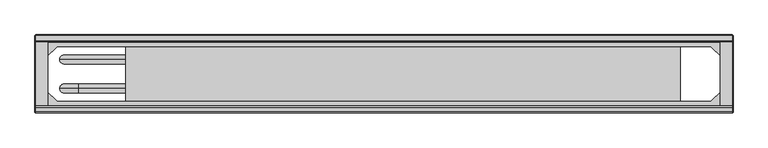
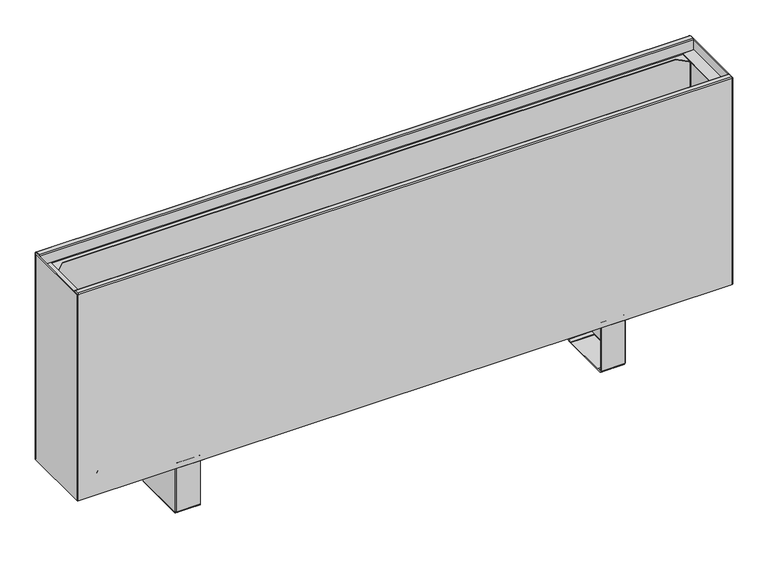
"""IFC4 building model written with IfcOpenShell, lengths in millimetres: proxy geometry, TECHNO_Конвектор напольный_Vita KPZ 135 : KPZ 135-400-1."""

from ifc_helpers import new_model, si_unit, point, frame, origin, place, context, project, spatial, polyline, circle_curve, ellipse_curve, trimmed, outline, extrude, source, transform, mapped, element, save
from ifc_brep_helpers import plane_surface, cylinder_surface, revolved_surface, advanced_brep


def mechanical_equipment_f7afe81f(model_context):
    return source(origin(), model_context, "Body", "SolidModel", [
        advanced_brep(
        [(409.7, -116.8, 1.5), (409.7, -114.5, 3.8), (409.7, -114.5, 4.9), (409.7, -116.0, 4.9), (409.7, -116.0, 3.8), (409.7, -116.8, 3.0), (409.7, -124.5, 3.0), (409.7, -124.5, 1.5), (409.7, -117.6, 1.5), (409.7, -114.5, 97.7), (409.7, -113.7, 98.5), (409.7, -101.0, 98.5), (409.7, -101.0, 100.0), (409.7, -113.7, 100.0), (409.7, -116.0, 97.7), (409.7, -116.0, 95.5), (409.7, -114.5, 95.5), (409.7, -220.5, 3.8), (409.7, -218.2, 1.5), (409.7, -217.4, 1.5), (409.7, -210.5, 1.5), (409.7, -210.5, 3.0), (409.7, -218.2, 3.0), (409.7, -219.0, 3.8), (409.7, -219.0, 4.9), (409.7, -220.5, 4.9), (409.7, -219.0, 97.7), (409.7, -221.3, 100.0), (409.7, -234.0, 100.0), (409.7, -234.0, 98.5), (409.7, -221.3, 98.5), (409.7, -220.5, 97.7), (409.7, -220.5, 95.5), (409.7, -219.0, 95.5), (367.0, -220.5, 97.7), (367.0, -221.3, 98.5), (367.0, -234.0, 98.5), (367.0, -234.0, 100.0), (367.0, -221.3, 100.0), (367.0, -219.0, 97.7), (367.0, -219.0, 3.8), (367.0, -218.2, 3.0), (367.0, -210.5, 3.0), (367.0, -210.5, 1.5), (367.0, -124.5, 1.5), (367.0, -124.5, 3.0), (367.0, -116.8, 3.0), (367.0, -116.0, 3.8), (367.0, -116.0, 97.7), (367.0, -113.7, 100.0), (367.0, -101.0, 100.0), (367.0, -101.0, 98.5), (367.0, -113.7, 98.5), (367.0, -114.5, 97.7), (367.0, -114.5, 3.8), (367.0, -116.8, 1.5), (367.0, -117.6, 1.5), (367.0, -117.6, 0.0), (367.0, -217.4, 0.0), (367.0, -217.4, 1.5), (367.0, -218.2, 1.5), (367.0, -220.5, 3.8), (410.5, -116.8, 95.5), (410.5, -218.2, 95.5), (412.0, -218.2, 95.5), (412.0, -116.8, 95.5), (412.0, -116.8, 4.9), (412.0, -117.6, 4.9), (410.5, -117.6, 4.9), (410.5, -116.8, 4.9), (410.5, -218.2, 4.9), (410.5, -217.4, 4.9), (412.0, -217.4, 4.9), (412.0, -218.2, 4.9), (410.5, -117.6, 2.3), (410.5, -217.4, 2.3), (412.0, -217.4, 2.3), (412.0, -117.6, 2.3), (409.7, -117.6, 0.0), (409.7, -217.4, 0.0)],
        [
            (0, 1, circle_curve(frame((409.7, -116.8, 3.8), z_axis=(1.0, 0.0, 0.0), x_axis=(0.0, -1.0, 0.0)), 2.3)),
            (1, 2),
            (2, 3),
            (3, 4),
            (4, 5, circle_curve(frame((409.7, -116.8, 3.8), z_axis=(-1.0, 0.0, 0.0), x_axis=(0.0, -1.0, 0.0)), 0.8)),
            (5, 6),
            (6, 7),
            (7, 8),
            (8, 0),
            (9, 10, circle_curve(frame((409.7, -113.7, 97.7), z_axis=(-1.0, 0.0, 0.0), x_axis=(0.0, -1.0, 0.0)), 0.8)),
            (10, 11),
            (11, 12),
            (12, 13),
            (13, 14, circle_curve(frame((409.7, -113.7, 97.7), z_axis=(1.0, 0.0, 0.0), x_axis=(0.0, -1.0, 0.0)), 2.3)),
            (14, 15),
            (15, 16),
            (16, 9),
            (17, 18, circle_curve(frame((409.7, -218.2, 3.8), z_axis=(1.0, 0.0, 0.0), x_axis=(0.0, -1.0, 0.0)), 2.3)),
            (18, 19),
            (19, 20),
            (20, 21),
            (21, 22),
            (22, 23, circle_curve(frame((409.7, -218.2, 3.8), z_axis=(-1.0, 0.0, 0.0), x_axis=(0.0, -1.0, 0.0)), 0.8)),
            (23, 24),
            (24, 25),
            (25, 17),
            (26, 27, circle_curve(frame((409.7, -221.3, 97.7), z_axis=(1.0, 0.0, 0.0), x_axis=(0.0, -1.0, 0.0)), 2.3)),
            (27, 28),
            (28, 29),
            (29, 30),
            (30, 31, circle_curve(frame((409.7, -221.3, 97.7), z_axis=(-1.0, 0.0, 0.0), x_axis=(0.0, -1.0, 0.0)), 0.8)),
            (31, 32),
            (32, 33),
            (33, 26),
            (34, 35, circle_curve(frame((367.0, -221.3, 97.7), z_axis=(1.0, 0.0, 0.0), x_axis=(0.0, -1.0, 0.0)), 0.8)),
            (35, 36),
            (36, 37),
            (37, 38),
            (38, 39, circle_curve(frame((367.0, -221.3, 97.7), z_axis=(-1.0, 0.0, 0.0), x_axis=(0.0, -1.0, 0.0)), 2.3)),
            (39, 40),
            (40, 41, circle_curve(frame((367.0, -218.2, 3.8), z_axis=(1.0, 0.0, 0.0), x_axis=(0.0, -1.0, 0.0)), 0.8)),
            (41, 42),
            (42, 43),
            (43, 44),
            (44, 45),
            (45, 46),
            (46, 47, circle_curve(frame((367.0, -116.8, 3.8), z_axis=(1.0, 0.0, 0.0), x_axis=(0.0, -1.0, 0.0)), 0.8)),
            (47, 48),
            (48, 49, circle_curve(frame((367.0, -113.7, 97.7), z_axis=(-1.0, 0.0, 0.0), x_axis=(0.0, -1.0, 0.0)), 2.3)),
            (49, 50),
            (50, 51),
            (51, 52),
            (52, 53, circle_curve(frame((367.0, -113.7, 97.7), z_axis=(1.0, 0.0, 0.0), x_axis=(0.0, -1.0, 0.0)), 0.8)),
            (53, 54),
            (54, 55, circle_curve(frame((367.0, -116.8, 3.8), z_axis=(-1.0, 0.0, 0.0), x_axis=(0.0, -1.0, 0.0)), 2.3)),
            (55, 56),
            (56, 57),
            (57, 58),
            (58, 59),
            (59, 60),
            (60, 61, circle_curve(frame((367.0, -218.2, 3.8), z_axis=(-1.0, 0.0, 0.0), x_axis=(0.0, -1.0, 0.0)), 2.3)),
            (61, 34),
            (30, 35),
            (34, 31),
            (29, 36),
            (28, 37),
            (27, 38),
            (26, 39),
            (33, 24),
            (23, 40),
            (22, 41),
            (5, 46),
            (45, 6),
            (4, 47),
            (3, 15),
            (14, 48),
            (13, 49),
            (12, 50),
            (11, 51),
            (10, 52),
            (9, 53),
            (16, 2),
            (1, 54),
            (0, 55),
            (8, 56),
            (17, 61),
            (60, 18),
            (25, 32),
            (21, 42),
            (20, 43),
            (59, 19),
            (44, 7),
            (15, 62, circle_curve(frame((409.7, -116.8, 95.5), z_axis=(0.0, 0.0, -1.0), x_axis=(-1.0, 0.0, 0.0)), 0.8)),
            (62, 63),
            (63, 33, circle_curve(frame((409.7, -218.2, 95.5), z_axis=(0.0, 0.0, -1.0), x_axis=(-1.0, 0.0, 0.0)), 0.8)),
            (32, 64, circle_curve(frame((409.7, -218.2, 95.5), z_axis=(0.0, 0.0, 1.0), x_axis=(-1.0, 0.0, 0.0)), 2.3)),
            (64, 65),
            (65, 16, circle_curve(frame((409.7, -116.8, 95.5), z_axis=(0.0, 0.0, 1.0), x_axis=(-1.0, 0.0, 0.0)), 2.3)),
            (2, 66, circle_curve(frame((409.7, -116.8, 4.9), z_axis=(0.0, 0.0, -1.0), x_axis=(-1.0, 0.0, 0.0)), 2.3)),
            (66, 67),
            (67, 68),
            (68, 69),
            (69, 3, circle_curve(frame((409.7, -116.8, 4.9), z_axis=(0.0, 0.0, 1.0), x_axis=(-1.0, 0.0, 0.0)), 0.8)),
            (24, 70, circle_curve(frame((409.7, -218.2, 4.9), z_axis=(0.0, 0.0, 1.0), x_axis=(-1.0, 0.0, 0.0)), 0.8)),
            (70, 71),
            (71, 72),
            (72, 73),
            (73, 25, circle_curve(frame((409.7, -218.2, 4.9), z_axis=(0.0, 0.0, -1.0), x_axis=(-1.0, 0.0, 0.0)), 2.3)),
            (69, 62),
            (68, 74),
            (74, 75),
            (75, 71),
            (70, 63),
            (64, 73),
            (72, 76),
            (76, 77),
            (77, 67),
            (66, 65),
            (8, 74, circle_curve(frame((409.7, -117.6, 2.3), z_axis=(0.0, -1.0, 0.0), x_axis=(-1.0, 0.0, 0.0)), 0.8)),
            (77, 78, circle_curve(frame((409.7, -117.6, 2.3), z_axis=(0.0, 1.0, 0.0), x_axis=(-1.0, 0.0, 0.0)), 2.3)),
            (78, 57),
            (58, 79),
            (79, 76, circle_curve(frame((409.7, -217.4, 2.3), z_axis=(0.0, -1.0, 0.0), x_axis=(-1.0, 0.0, 0.0)), 2.3)),
            (75, 19, circle_curve(frame((409.7, -217.4, 2.3), z_axis=(0.0, 1.0, 0.0), x_axis=(-1.0, 0.0, 0.0)), 0.8)),
            (20, 7),
            (79, 78),
        ],
        [
            plane_surface(frame((409.7, -222.1, 97.7), z_axis=(1.0, 0.0, 0.0), x_axis=(0.0, 0.0, 1.0))),
            plane_surface(frame((367.0, -222.1, 97.7), z_axis=(-1.0, 0.0, 0.0), x_axis=(0.0, 0.0, -1.0))),
            revolved_surface(polyline([(409.7, -222.10000000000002, 97.7), (367.0, -222.10000000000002, 97.7)]), (409.7, -221.3, 97.7), (1.0, 0.0, 0.0)),
            plane_surface(frame((367.0, -221.3, 98.5), z_axis=(0.0, 0.0, -1.0), x_axis=(1.0, 0.0, 0.0))),
            plane_surface(frame((367.0, -234.0, 98.5), z_axis=(0.0, -1.0, 0.0), x_axis=(1.0, 0.0, 0.0))),
            plane_surface(frame((367.0, -234.0, 100.0), z_axis=(0.0, 0.0, 1.0), x_axis=(1.0, 0.0, 0.0))),
            cylinder_surface(frame((409.7, -221.3, 97.7), z_axis=(-1.0, 0.0, 0.0), x_axis=(0.0, -1.0, 0.0)), 2.3),
            plane_surface(frame((367.0, -219.0, 97.7), z_axis=(0.0, 1.0, 0.0), x_axis=(1.0, 0.0, 0.0))),
            revolved_surface(polyline([(409.7, -219.0, 3.8), (367.0, -219.0, 3.8)]), (409.7, -218.2, 3.8), (1.0, 0.0, 0.0)),
            plane_surface(frame((367.0, -124.5, 3.0), z_axis=(0.0, 0.0, 1.0), x_axis=(1.0, 0.0, 0.0))),
            revolved_surface(polyline([(409.7, -117.6, 3.8), (367.0, -117.6, 3.8)]), (412.0, -116.8, 3.8), (1.0, 0.0, 0.0)),
            plane_surface(frame((367.0, -116.0, 3.8), z_axis=(0.0, -1.0, 0.0), x_axis=(1.0, 0.0, 0.0))),
            cylinder_surface(frame((412.0, -113.7, 97.7), z_axis=(-1.0, 0.0, 0.0), x_axis=(0.0, -1.0, 0.0)), 2.3),
            plane_surface(frame((367.0, -113.7, 100.0), z_axis=(0.0, 0.0, 1.0), x_axis=(1.0, 0.0, 0.0))),
            plane_surface(frame((367.0, -101.0, 100.0), z_axis=(0.0, 1.0, 0.0), x_axis=(1.0, 0.0, 0.0))),
            plane_surface(frame((367.0, -101.0, 98.5), z_axis=(0.0, 0.0, -1.0), x_axis=(1.0, 0.0, 0.0))),
            revolved_surface(polyline([(409.7, -114.5, 97.7), (367.0, -114.5, 97.7)]), (412.0, -113.7, 97.7), (1.0, 0.0, 0.0)),
            plane_surface(frame((367.0, -114.5, 97.7), z_axis=(0.0, 1.0, 0.0), x_axis=(1.0, 0.0, 0.0))),
            cylinder_surface(frame((412.0, -116.8, 3.8), z_axis=(-1.0, 0.0, 0.0), x_axis=(0.0, -1.0, 0.0)), 2.3),
            plane_surface(frame((367.0, -116.8, 1.5), z_axis=(0.0, 0.0, -1.0), x_axis=(1.0, 0.0, 0.0))),
            cylinder_surface(frame((409.7, -218.2, 3.8), z_axis=(-1.0, 0.0, 0.0), x_axis=(0.0, -1.0, 0.0)), 2.3),
            plane_surface(frame((367.0, -220.5, 3.8), z_axis=(0.0, -1.0, 0.0), x_axis=(1.0, 0.0, 0.0))),
            plane_surface(frame((367.0, -218.2, 3.0), z_axis=(0.0, 0.0, 1.0), x_axis=(1.0, 0.0, 0.0))),
            plane_surface(frame((367.0, -210.5, 3.0), z_axis=(0.0, 1.0, 0.0), x_axis=(1.0, 0.0, 0.0))),
            plane_surface(frame((367.0, -210.5, 1.5), z_axis=(0.0, 0.0, -1.0), x_axis=(1.0, 0.0, 0.0))),
            plane_surface(frame((367.0, -124.5, 1.5), z_axis=(0.0, -1.0, 0.0), x_axis=(1.0, 0.0, 0.0))),
            plane_surface(frame((409.7, -116.0, 95.5), z_axis=(0.0, 0.0, 1.0), x_axis=(0.0, -1.0, 0.0))),
            plane_surface(frame((409.7, -116.0, 4.9), z_axis=(0.0, 0.0, -1.0), x_axis=(0.0, 1.0, 0.0))),
            revolved_surface(polyline([(408.9, -116.8, 4.9), (408.9, -116.8, 95.5)]), (409.7, -116.8, 4.9), (0.0, 0.0, -1.0)),
            plane_surface(frame((410.5, -116.8, 95.5), z_axis=(-1.0, 0.0, 0.0), x_axis=(0.0, 0.0, -1.0))),
            plane_surface(frame((412.0, -117.6, 95.5), z_axis=(1.0, 0.0, 0.0), x_axis=(0.0, 0.0, -1.0))),
            cylinder_surface(frame((409.7, -116.8, 4.9), z_axis=(0.0, 0.0, 1.0), x_axis=(-1.0, 0.0, 0.0)), 2.3),
            cylinder_surface(frame((409.7, -218.2, 0.0), z_axis=(0.0, 0.0, 1.0), x_axis=(-1.0, 0.0, 0.0)), 2.3),
            revolved_surface(polyline([(408.9, -218.2, 4.9), (408.9, -218.2, 95.5)]), (409.7, -218.2, 0.0), (0.0, 0.0, -1.0)),
            plane_surface(frame((367.0, -117.6, 1.5), z_axis=(0.0, 1.0, 0.0), x_axis=(0.0, 0.0, 1.0))),
            plane_surface(frame((367.0, -217.4, 1.5), z_axis=(0.0, -1.0, 0.0), x_axis=(0.0, 0.0, -1.0))),
            plane_surface(frame((367.0, -117.6, 1.5), z_axis=(0.0, 0.0, 1.0), x_axis=(0.0, -1.0, 0.0))),
            revolved_surface(polyline([(408.9, -217.4, 2.3), (408.9, -117.6, 2.3)]), (409.7, -217.4, 2.3), (0.0, -1.0, 0.0)),
            cylinder_surface(frame((409.7, -217.4, 2.3), z_axis=(0.0, 1.0, 0.0), x_axis=(-1.0, 0.0, 0.0)), 2.3),
            plane_surface(frame((409.7, -117.6, 0.0), z_axis=(0.0, 0.0, -1.0), x_axis=(0.0, -1.0, 0.0))),
        ],
        [
            (0, [[1, 2, 3, 4, 5, 6, 7, 8, 9]]),
            (0, [[10, 11, 12, 13, 14, 15, 16, 17]]),
            (0, [[18, 19, 20, 21, 22, 23, 24, 25, 26]]),
            (0, [[27, 28, 29, 30, 31, 32, 33, 34]]),
            (1, [[35, 36, 37, 38, 39, 40, 41, 42, 43, 44, 45, 46, 47, 48, 49, 50, 51, 52, 53, 54, 55, 56, 57, 58, 59, 60, 61, 62]]),
            (2, [[-31, 63, -35, 64]]),
            (3, [[-30, 65, -36, -63]]),
            (4, [[-29, 66, -37, -65]]),
            (5, [[-28, 67, -38, -66]]),
            (6, [[-27, 68, -39, -67]]),
            (7, [[-40, -68, -34, 69, -24, 70]]),
            (8, [[-23, 71, -41, -70]]),
            (9, [[-6, 72, -46, 73]]),
            (10, [[-5, 74, -47, -72]]),
            (11, [[-48, -74, -4, 75, -15, 76]]),
            (12, [[-14, 77, -49, -76]]),
            (13, [[-13, 78, -50, -77]]),
            (14, [[-12, 79, -51, -78]]),
            (15, [[-11, 80, -52, -79]]),
            (16, [[-10, 81, -53, -80]]),
            (17, [[-54, -81, -17, 82, -2, 83]]),
            (18, [[-1, 84, -55, -83]]),
            (19, [[-84, -9, 85, -56]]),
            (20, [[-18, 86, -61, 87]]),
            (21, [[-62, -86, -26, 88, -32, -64]]),
            (22, [[-22, 89, -42, -71]]),
            (23, [[-21, 90, -43, -89]]),
            (24, [[-87, -60, 91, -19]]),
            (25, [[-7, -73, -45, 92]]),
            (26, [[93, 94, 95, -33, 96, 97, 98, -16]]),
            (27, [[99, 100, 101, 102, 103, -3]]),
            (27, [[104, 105, 106, 107, 108, -25]]),
            (28, [[-93, -75, -103, 109]]),
            (29, [[-94, -109, -102, 110, 111, 112, -105, 113]]),
            (30, [[-97, 114, -107, 115, 116, 117, -100, 118]]),
            (31, [[-98, -118, -99, -82]]),
            (32, [[-96, -88, -108, -114]]),
            (33, [[-95, -113, -104, -69]]),
            (34, [[-57, -85, 119, -110, -101, -117, 120, 121]]),
            (35, [[122, 123, -115, -106, -112, 124, -91, -59]]),
            (36, [[125, -92, -44, -90]]),
            (37, [[-119, -8, -125, -20, -124, -111]]),
            (38, [[-120, -116, -123, 126]]),
            (39, [[-121, -126, -122, -58]]),
        ],
    ),
        advanced_brep(
        [(-409.7, -218.2, 1.5), (-409.7, -220.5, 3.8), (-409.7, -220.5, 4.9), (-409.7, -219.0, 4.9), (-409.7, -219.0, 3.8), (-409.7, -218.2, 3.0), (-409.7, -210.5, 3.0), (-409.7, -210.5, 1.5), (-409.7, -217.4, 1.5), (-409.7, -220.5, 97.7), (-409.7, -221.3, 98.5), (-409.7, -234.0, 98.5), (-409.7, -234.0, 100.0), (-409.7, -221.3, 100.0), (-409.7, -219.0, 97.7), (-409.7, -219.0, 95.5), (-409.7, -220.5, 95.5), (-409.7, -114.5, 3.8), (-409.7, -116.8, 1.5), (-409.7, -117.6, 1.5), (-409.7, -124.5, 1.5), (-409.7, -124.5, 3.0), (-409.7, -116.8, 3.0), (-409.7, -116.0, 3.8), (-409.7, -116.0, 4.9), (-409.7, -114.5, 4.9), (-409.7, -116.0, 97.7), (-409.7, -113.7, 100.0), (-409.7, -101.0, 100.0), (-409.7, -101.0, 98.5), (-409.7, -113.7, 98.5), (-409.7, -114.5, 97.7), (-409.7, -114.5, 95.5), (-409.7, -116.0, 95.5), (-367.0, -114.5, 97.7), (-367.0, -113.7, 98.5), (-367.0, -101.0, 98.5), (-367.0, -101.0, 100.0), (-367.0, -113.7, 100.0), (-367.0, -116.0, 97.7), (-367.0, -116.0, 3.8), (-367.0, -116.8, 3.0), (-367.0, -124.5, 3.0), (-367.0, -124.5, 1.5), (-367.0, -210.5, 1.5), (-367.0, -210.5, 3.0), (-367.0, -218.2, 3.0), (-367.0, -219.0, 3.8), (-367.0, -219.0, 97.7), (-367.0, -221.3, 100.0), (-367.0, -234.0, 100.0), (-367.0, -234.0, 98.5), (-367.0, -221.3, 98.5), (-367.0, -220.5, 97.7), (-367.0, -220.5, 3.8), (-367.0, -218.2, 1.5), (-367.0, -217.4, 1.5), (-367.0, -217.4, 0.0), (-367.0, -117.6, 0.0), (-367.0, -117.6, 1.5), (-367.0, -116.8, 1.5), (-367.0, -114.5, 3.8), (-410.5, -218.2, 95.5), (-410.5, -116.8, 95.5), (-412.0, -116.8, 95.5), (-412.0, -218.2, 95.5), (-412.0, -218.2, 4.9), (-412.0, -217.4, 4.9), (-410.5, -217.4, 4.9), (-410.5, -218.2, 4.9), (-410.5, -116.8, 4.9), (-410.5, -117.6, 4.9), (-412.0, -117.6, 4.9), (-412.0, -116.8, 4.9), (-410.5, -217.4, 2.3), (-410.5, -117.6, 2.3), (-412.0, -117.6, 2.3), (-412.0, -217.4, 2.3), (-409.7, -217.4, 0.0), (-409.7, -117.6, 0.0)],
        [
            (0, 1, circle_curve(frame((-409.7, -218.2, 3.8), z_axis=(-1.0, 0.0, 0.0), x_axis=(0.0, 1.0, 0.0)), 2.3)),
            (1, 2),
            (2, 3),
            (3, 4),
            (4, 5, circle_curve(frame((-409.7, -218.2, 3.8), z_axis=(1.0, 0.0, 0.0), x_axis=(0.0, 1.0, 0.0)), 0.8)),
            (5, 6),
            (6, 7),
            (7, 8),
            (8, 0),
            (9, 10, circle_curve(frame((-409.7, -221.3, 97.7), z_axis=(1.0, 0.0, 0.0), x_axis=(0.0, 1.0, 0.0)), 0.8)),
            (10, 11),
            (11, 12),
            (12, 13),
            (13, 14, circle_curve(frame((-409.7, -221.3, 97.7), z_axis=(-1.0, 0.0, 0.0), x_axis=(0.0, 1.0, 0.0)), 2.3)),
            (14, 15),
            (15, 16),
            (16, 9),
            (17, 18, circle_curve(frame((-409.7, -116.8, 3.8), z_axis=(-1.0, 0.0, 0.0), x_axis=(0.0, 1.0, 0.0)), 2.3)),
            (18, 19),
            (19, 20),
            (20, 21),
            (21, 22),
            (22, 23, circle_curve(frame((-409.7, -116.8, 3.8), z_axis=(1.0, 0.0, 0.0), x_axis=(0.0, 1.0, 0.0)), 0.8)),
            (23, 24),
            (24, 25),
            (25, 17),
            (26, 27, circle_curve(frame((-409.7, -113.7, 97.7), z_axis=(-1.0, 0.0, 0.0), x_axis=(0.0, 1.0, 0.0)), 2.3)),
            (27, 28),
            (28, 29),
            (29, 30),
            (30, 31, circle_curve(frame((-409.7, -113.7, 97.7), z_axis=(1.0, 0.0, 0.0), x_axis=(0.0, 1.0, 0.0)), 0.8)),
            (31, 32),
            (32, 33),
            (33, 26),
            (34, 35, circle_curve(frame((-367.0, -113.7, 97.7), z_axis=(-1.0, 0.0, 0.0), x_axis=(0.0, 1.0, 0.0)), 0.8)),
            (35, 36),
            (36, 37),
            (37, 38),
            (38, 39, circle_curve(frame((-367.0, -113.7, 97.7), z_axis=(1.0, 0.0, 0.0), x_axis=(0.0, 1.0, 0.0)), 2.3)),
            (39, 40),
            (40, 41, circle_curve(frame((-367.0, -116.8, 3.8), z_axis=(-1.0, 0.0, 0.0), x_axis=(0.0, 1.0, 0.0)), 0.8)),
            (41, 42),
            (42, 43),
            (43, 44),
            (44, 45),
            (45, 46),
            (46, 47, circle_curve(frame((-367.0, -218.2, 3.8), z_axis=(-1.0, 0.0, 0.0), x_axis=(0.0, 1.0, 0.0)), 0.8)),
            (47, 48),
            (48, 49, circle_curve(frame((-367.0, -221.3, 97.7), z_axis=(1.0, 0.0, 0.0), x_axis=(0.0, 1.0, 0.0)), 2.3)),
            (49, 50),
            (50, 51),
            (51, 52),
            (52, 53, circle_curve(frame((-367.0, -221.3, 97.7), z_axis=(-1.0, 0.0, 0.0), x_axis=(0.0, 1.0, 0.0)), 0.8)),
            (53, 54),
            (54, 55, circle_curve(frame((-367.0, -218.2, 3.8), z_axis=(1.0, 0.0, 0.0), x_axis=(0.0, 1.0, 0.0)), 2.3)),
            (55, 56),
            (56, 57),
            (57, 58),
            (58, 59),
            (59, 60),
            (60, 61, circle_curve(frame((-367.0, -116.8, 3.8), z_axis=(1.0, 0.0, 0.0), x_axis=(0.0, 1.0, 0.0)), 2.3)),
            (61, 34),
            (30, 35),
            (34, 31),
            (29, 36),
            (28, 37),
            (27, 38),
            (26, 39),
            (33, 24),
            (23, 40),
            (22, 41),
            (5, 46),
            (45, 6),
            (4, 47),
            (3, 15),
            (14, 48),
            (13, 49),
            (12, 50),
            (11, 51),
            (10, 52),
            (9, 53),
            (16, 2),
            (1, 54),
            (0, 55),
            (8, 56),
            (17, 61),
            (60, 18),
            (25, 32),
            (21, 42),
            (20, 43),
            (59, 19),
            (44, 7),
            (15, 62, circle_curve(frame((-409.7, -218.2, 95.5), z_axis=(0.0, 0.0, -1.0), x_axis=(1.0, 0.0, 0.0)), 0.8)),
            (62, 63),
            (63, 33, circle_curve(frame((-409.7, -116.8, 95.5), z_axis=(0.0, 0.0, -1.0), x_axis=(1.0, 0.0, 0.0)), 0.8)),
            (32, 64, circle_curve(frame((-409.7, -116.8, 95.5), z_axis=(0.0, 0.0, 1.0), x_axis=(1.0, 0.0, 0.0)), 2.3)),
            (64, 65),
            (65, 16, circle_curve(frame((-409.7, -218.2, 95.5), z_axis=(0.0, 0.0, 1.0), x_axis=(1.0, 0.0, 0.0)), 2.3)),
            (2, 66, circle_curve(frame((-409.7, -218.2, 4.9), z_axis=(0.0, 0.0, -1.0), x_axis=(1.0, 0.0, 0.0)), 2.3)),
            (66, 67),
            (67, 68),
            (68, 69),
            (69, 3, circle_curve(frame((-409.7, -218.2, 4.9), z_axis=(0.0, 0.0, 1.0), x_axis=(1.0, 0.0, 0.0)), 0.8)),
            (24, 70, circle_curve(frame((-409.7, -116.8, 4.9), z_axis=(0.0, 0.0, 1.0), x_axis=(1.0, 0.0, 0.0)), 0.8)),
            (70, 71),
            (71, 72),
            (72, 73),
            (73, 25, circle_curve(frame((-409.7, -116.8, 4.9), z_axis=(0.0, 0.0, -1.0), x_axis=(1.0, 0.0, 0.0)), 2.3)),
            (69, 62),
            (68, 74),
            (74, 75),
            (75, 71),
            (70, 63),
            (64, 73),
            (72, 76),
            (76, 77),
            (77, 67),
            (66, 65),
            (8, 74, circle_curve(frame((-409.7, -217.4, 2.3), z_axis=(0.0, 1.0, 0.0), x_axis=(1.0, 0.0, 0.0)), 0.8)),
            (77, 78, circle_curve(frame((-409.7, -217.4, 2.3), z_axis=(0.0, -1.0, 0.0), x_axis=(1.0, 0.0, 0.0)), 2.3)),
            (78, 57),
            (58, 79),
            (79, 76, circle_curve(frame((-409.7, -117.6, 2.3), z_axis=(0.0, 1.0, 0.0), x_axis=(1.0, 0.0, 0.0)), 2.3)),
            (75, 19, circle_curve(frame((-409.7, -117.6, 2.3), z_axis=(0.0, -1.0, 0.0), x_axis=(1.0, 0.0, 0.0)), 0.8)),
            (20, 7),
            (79, 78),
        ],
        [
            plane_surface(frame((-409.7, -112.9, 97.7), z_axis=(-1.0, 0.0, 0.0), x_axis=(0.0, 0.0, 1.0))),
            plane_surface(frame((-367.0, -112.9, 97.7), z_axis=(1.0, 0.0, 0.0), x_axis=(0.0, 0.0, -1.0))),
            revolved_surface(polyline([(-409.7, -112.9, 97.7), (-367.0, -112.9, 97.7)]), (-409.7, -113.7, 97.7), (-1.0, 0.0, 0.0)),
            plane_surface(frame((-367.0, -113.7, 98.5), z_axis=(0.0, 0.0, -1.0), x_axis=(-1.0, 0.0, 0.0))),
            plane_surface(frame((-367.0, -101.0, 98.5), z_axis=(0.0, 1.0, 0.0), x_axis=(-1.0, 0.0, 0.0))),
            plane_surface(frame((-367.0, -101.0, 100.0), z_axis=(0.0, 0.0, 1.0), x_axis=(-1.0, 0.0, 0.0))),
            cylinder_surface(frame((-409.7, -113.7, 97.7), z_axis=(1.0, 0.0, 0.0), x_axis=(0.0, 1.0, 0.0)), 2.3),
            plane_surface(frame((-367.0, -116.0, 97.7), z_axis=(0.0, -1.0, 0.0), x_axis=(-1.0, 0.0, 0.0))),
            revolved_surface(polyline([(-409.7, -116.0, 3.8), (-367.0, -116.0, 3.8)]), (-409.7, -116.8, 3.8), (-1.0, 0.0, 0.0)),
            plane_surface(frame((-367.0, -210.5, 3.0), z_axis=(0.0, 0.0, 1.0), x_axis=(-1.0, 0.0, 0.0))),
            revolved_surface(polyline([(-409.7, -217.39999999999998, 3.8), (-367.0, -217.39999999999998, 3.8)]), (-412.0, -218.2, 3.8), (-1.0, 0.0, 0.0)),
            plane_surface(frame((-367.0, -219.0, 3.8), z_axis=(0.0, 1.0, 0.0), x_axis=(-1.0, 0.0, 0.0))),
            cylinder_surface(frame((-412.0, -221.3, 97.7), z_axis=(1.0, 0.0, 0.0), x_axis=(0.0, 1.0, 0.0)), 2.3),
            plane_surface(frame((-367.0, -221.3, 100.0), z_axis=(0.0, 0.0, 1.0), x_axis=(-1.0, 0.0, 0.0))),
            plane_surface(frame((-367.0, -234.0, 100.0), z_axis=(0.0, -1.0, 0.0), x_axis=(-1.0, 0.0, 0.0))),
            plane_surface(frame((-367.0, -234.0, 98.5), z_axis=(0.0, 0.0, -1.0), x_axis=(-1.0, 0.0, 0.0))),
            revolved_surface(polyline([(-409.7, -220.5, 97.7), (-367.0, -220.5, 97.7)]), (-412.0, -221.3, 97.7), (-1.0, 0.0, 0.0)),
            plane_surface(frame((-367.0, -220.5, 97.7), z_axis=(0.0, -1.0, 0.0), x_axis=(-1.0, 0.0, 0.0))),
            cylinder_surface(frame((-412.0, -218.2, 3.8), z_axis=(1.0, 0.0, 0.0), x_axis=(0.0, 1.0, 0.0)), 2.3),
            plane_surface(frame((-367.0, -218.2, 1.5), z_axis=(0.0, 0.0, -1.0), x_axis=(-1.0, 0.0, 0.0))),
            cylinder_surface(frame((-409.7, -116.8, 3.8), z_axis=(1.0, 0.0, 0.0), x_axis=(0.0, 1.0, 0.0)), 2.3),
            plane_surface(frame((-367.0, -114.5, 3.8), z_axis=(0.0, 1.0, 0.0), x_axis=(-1.0, 0.0, 0.0))),
            plane_surface(frame((-367.0, -116.8, 3.0), z_axis=(0.0, 0.0, 1.0), x_axis=(-1.0, 0.0, 0.0))),
            plane_surface(frame((-367.0, -124.5, 3.0), z_axis=(0.0, -1.0, 0.0), x_axis=(-1.0, 0.0, 0.0))),
            plane_surface(frame((-367.0, -124.5, 1.5), z_axis=(0.0, 0.0, -1.0), x_axis=(-1.0, 0.0, 0.0))),
            plane_surface(frame((-367.0, -210.5, 1.5), z_axis=(0.0, 1.0, 0.0), x_axis=(-1.0, 0.0, 0.0))),
            plane_surface(frame((-409.7, -219.0, 95.5), z_axis=(0.0, 0.0, 1.0), x_axis=(0.0, 1.0, 0.0))),
            plane_surface(frame((-409.7, -219.0, 4.9), z_axis=(0.0, 0.0, -1.0), x_axis=(0.0, -1.0, 0.0))),
            revolved_surface(polyline([(-408.9, -218.2, 4.9), (-408.9, -218.2, 95.5)]), (-409.7, -218.2, 4.9), (0.0, 0.0, -1.0)),
            plane_surface(frame((-410.5, -218.2, 95.5), z_axis=(1.0, 0.0, 0.0), x_axis=(0.0, 0.0, -1.0))),
            plane_surface(frame((-412.0, -217.4, 95.5), z_axis=(-1.0, 0.0, 0.0), x_axis=(0.0, 0.0, -1.0))),
            cylinder_surface(frame((-409.7, -218.2, 4.9), z_axis=(0.0, 0.0, 1.0), x_axis=(1.0, 0.0, 0.0)), 2.3),
            cylinder_surface(frame((-409.7, -116.8, 0.0), z_axis=(0.0, 0.0, 1.0), x_axis=(1.0, 0.0, 0.0)), 2.3),
            revolved_surface(polyline([(-408.9, -116.8, 4.9), (-408.9, -116.8, 95.5)]), (-409.7, -116.8, 0.0), (0.0, 0.0, -1.0)),
            plane_surface(frame((-367.0, -217.4, 1.5), z_axis=(0.0, -1.0, 0.0), x_axis=(0.0, 0.0, 1.0))),
            plane_surface(frame((-367.0, -117.6, 1.5), z_axis=(0.0, 1.0, 0.0), x_axis=(0.0, 0.0, -1.0))),
            plane_surface(frame((-367.0, -217.4, 1.5), z_axis=(0.0, 0.0, 1.0), x_axis=(0.0, 1.0, 0.0))),
            revolved_surface(polyline([(-408.9, -117.6, 2.3), (-408.9, -217.4, 2.3)]), (-409.7, -117.6, 2.3), (0.0, 1.0, 0.0)),
            cylinder_surface(frame((-409.7, -117.6, 2.3), z_axis=(0.0, -1.0, 0.0), x_axis=(1.0, 0.0, 0.0)), 2.3),
            plane_surface(frame((-409.7, -217.4, 0.0), z_axis=(0.0, 0.0, -1.0), x_axis=(0.0, 1.0, 0.0))),
        ],
        [
            (0, [[1, 2, 3, 4, 5, 6, 7, 8, 9]]),
            (0, [[10, 11, 12, 13, 14, 15, 16, 17]]),
            (0, [[18, 19, 20, 21, 22, 23, 24, 25, 26]]),
            (0, [[27, 28, 29, 30, 31, 32, 33, 34]]),
            (1, [[35, 36, 37, 38, 39, 40, 41, 42, 43, 44, 45, 46, 47, 48, 49, 50, 51, 52, 53, 54, 55, 56, 57, 58, 59, 60, 61, 62]]),
            (2, [[-31, 63, -35, 64]]),
            (3, [[-30, 65, -36, -63]]),
            (4, [[-29, 66, -37, -65]]),
            (5, [[-28, 67, -38, -66]]),
            (6, [[-27, 68, -39, -67]]),
            (7, [[-40, -68, -34, 69, -24, 70]]),
            (8, [[-23, 71, -41, -70]]),
            (9, [[-6, 72, -46, 73]]),
            (10, [[-5, 74, -47, -72]]),
            (11, [[-48, -74, -4, 75, -15, 76]]),
            (12, [[-14, 77, -49, -76]]),
            (13, [[-13, 78, -50, -77]]),
            (14, [[-12, 79, -51, -78]]),
            (15, [[-11, 80, -52, -79]]),
            (16, [[-10, 81, -53, -80]]),
            (17, [[-54, -81, -17, 82, -2, 83]]),
            (18, [[-1, 84, -55, -83]]),
            (19, [[-84, -9, 85, -56]]),
            (20, [[-18, 86, -61, 87]]),
            (21, [[-62, -86, -26, 88, -32, -64]]),
            (22, [[-22, 89, -42, -71]]),
            (23, [[-21, 90, -43, -89]]),
            (24, [[-87, -60, 91, -19]]),
            (25, [[-7, -73, -45, 92]]),
            (26, [[93, 94, 95, -33, 96, 97, 98, -16]]),
            (27, [[99, 100, 101, 102, 103, -3]]),
            (27, [[104, 105, 106, 107, 108, -25]]),
            (28, [[-93, -75, -103, 109]]),
            (29, [[-94, -109, -102, 110, 111, 112, -105, 113]]),
            (30, [[-97, 114, -107, 115, 116, 117, -100, 118]]),
            (31, [[-98, -118, -99, -82]]),
            (32, [[-96, -88, -108, -114]]),
            (33, [[-95, -113, -104, -69]]),
            (34, [[-57, -85, 119, -110, -101, -117, 120, 121]]),
            (35, [[122, 123, -115, -106, -112, 124, -91, -59]]),
            (36, [[125, -92, -44, -90]]),
            (37, [[-119, -8, -125, -20, -124, -111]]),
            (38, [[-120, -116, -123, 126]]),
            (39, [[-121, -126, -122, -58]]),
        ],
    ),
        advanced_brep(
        [(-444.0, -192.5, 136.5), (-444.0, -192.5, 121.5), (-525.0, -192.5, 136.5), (-525.0, -192.5, 121.5), (-542.5, -192.5, 104.0), (-557.5, -192.5, 104.0), (-557.5, -192.5, 100.0), (-542.5, -192.5, 100.0)],
        [
            (0, 1, circle_curve(frame((-444.0, -192.5, 129.0), z_axis=(1.0, 0.0, 0.0), x_axis=(0.0, 0.0, -1.0)), 7.5)),
            (1, 0, circle_curve(frame((-444.0, -192.5, 129.0), z_axis=(1.0, 0.0, 0.0), x_axis=(0.0, 0.0, -1.0)), 7.5)),
            (0, 2),
            (2, 3, circle_curve(frame((-525.0, -192.5, 129.0), z_axis=(1.0, 0.0, 0.0), x_axis=(0.0, 0.0, -1.0)), 7.5)),
            (3, 1),
            (3, 2, circle_curve(frame((-525.0, -192.5, 129.0), z_axis=(1.0, 0.0, 0.0), x_axis=(0.0, 0.0, -1.0)), 7.5)),
            (4, 3, circle_curve(frame((-525.0, -192.5, 104.0), z_axis=(0.0, 1.0, 0.0), x_axis=(0.0, 0.0, 1.0)), 17.5)),
            (2, 5, circle_curve(frame((-525.0, -192.5, 104.0), z_axis=(0.0, -1.0, 0.0), x_axis=(0.0, 0.0, 1.0)), 32.5)),
            (5, 4, circle_curve(frame((-550.0, -192.5, 104.0), z_axis=(0.0, 0.0, 1.0), x_axis=(1.0, 0.0, 0.0)), 7.5)),
            (4, 5, circle_curve(frame((-550.0, -192.5, 104.0), z_axis=(0.0, 0.0, 1.0), x_axis=(1.0, 0.0, 0.0)), 7.5)),
            (6, 7, circle_curve(frame((-550.0, -192.5, 100.0), z_axis=(0.0, 0.0, -1.0), x_axis=(1.0, 0.0, 0.0)), 7.5)),
            (7, 6, circle_curve(frame((-550.0, -192.5, 100.0), z_axis=(0.0, 0.0, -1.0), x_axis=(1.0, 0.0, 0.0)), 7.5)),
            (5, 6),
            (7, 4),
        ],
        [
            plane_surface(frame((-444.0, -192.5, 129.0), z_axis=(1.0, 0.0, 0.0), x_axis=(0.0, -1.0, 0.0))),
            cylinder_surface(frame((-444.0, -192.5, 129.0), z_axis=(1.0, 0.0, 0.0), x_axis=(0.0, 0.0, -1.0)), 7.5),
            revolved_surface(trimmed(ellipse_curve(frame((-525.0, -192.5, 129.0), z_axis=(1.0, 0.0, 0.0), x_axis=(0.0, 0.0, -1.0)), 7.5, 7.5), [point((-525.0, -192.5, 136.5))], [point((-525.0, -192.5, 121.5))], True, "CARTESIAN"), (-525.0, -192.5, 104.0), (0.0, -1.0, 0.0)),
            revolved_surface(trimmed(ellipse_curve(frame((-525.0, -192.5, 129.0), z_axis=(1.0, 0.0, 0.0), x_axis=(0.0, 0.0, -1.0)), 7.5, 7.5), [point((-525.0, -192.5, 121.5))], [point((-525.0, -192.5, 136.5))], True, "CARTESIAN"), (-525.0, -192.5, 104.0), (0.0, -1.0, 0.0)),
            plane_surface(frame((-550.0, -192.5, 100.0), z_axis=(0.0, 0.0, -1.0), x_axis=(0.0, -1.0, 0.0))),
            cylinder_surface(frame((-550.0, -192.5, 104.0), z_axis=(0.0, 0.0, 1.0), x_axis=(1.0, 0.0, 0.0)), 7.5),
        ],
        [
            (0, [[1, 2]]),
            (1, [[-1, 3, 4, 5]]),
            (1, [[-2, -5, 6, -3]]),
            (2, [[7, -4, 8, 9]]),
            (3, [[-8, -6, -7, 10]]),
            (4, [[11, 12]]),
            (5, [[-9, 13, -12, 14]]),
            (5, [[-10, -14, -11, -13]]),
        ],
    ),
        advanced_brep(
        [(-444.0, -142.5, 136.5), (-444.0, -142.5, 121.5), (-557.5, -142.5, 136.5), (-542.5, -142.5, 121.5), (-557.5, -142.5, 100.0), (-542.5, -142.5, 100.0)],
        [
            (0, 1, circle_curve(frame((-444.0, -142.5, 129.0), z_axis=(1.0, 0.0, 0.0), x_axis=(0.0, 0.0, -1.0)), 7.5)),
            (1, 0, circle_curve(frame((-444.0, -142.5, 129.0), z_axis=(1.0, 0.0, 0.0), x_axis=(0.0, 0.0, -1.0)), 7.5)),
            (0, 2),
            (2, 3, ellipse_curve(frame((-550.0, -142.5, 129.0), z_axis=(0.7071067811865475, 0.0, 0.7071067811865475), x_axis=(0.7071067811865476, 0.0, -0.7071067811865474)), 10.6066017, 7.5)),
            (3, 1),
            (3, 2, ellipse_curve(frame((-550.0, -142.5, 129.0), z_axis=(0.7071067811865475, 0.0, 0.7071067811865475), x_axis=(0.7071067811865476, 0.0, -0.7071067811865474)), 10.6066017, 7.5)),
            (4, 5, circle_curve(frame((-550.0, -142.5, 100.0), z_axis=(0.0, 0.0, -1.0), x_axis=(1.0, 0.0, 0.0)), 7.5)),
            (5, 4, circle_curve(frame((-550.0, -142.5, 100.0), z_axis=(0.0, 0.0, -1.0), x_axis=(1.0, 0.0, 0.0)), 7.5)),
            (2, 4),
            (5, 3),
        ],
        [
            plane_surface(frame((-444.0, -142.5, 129.0), z_axis=(1.0, 0.0, 0.0), x_axis=(0.0, -1.0, 0.0))),
            cylinder_surface(frame((-444.0, -142.5, 129.0), z_axis=(1.0, 0.0, 0.0), x_axis=(0.0, 0.0, -1.0)), 7.5),
            plane_surface(frame((-550.0, -142.5, 100.0), z_axis=(0.0, 0.0, -1.0), x_axis=(0.0, -1.0, 0.0))),
            cylinder_surface(frame((-550.0, -142.5, 129.0), z_axis=(0.0, 0.0, 1.0), x_axis=(1.0, 0.0, 0.0)), 7.5),
        ],
        [
            (0, [[1, 2]]),
            (1, [[-1, 3, 4, 5]]),
            (1, [[-2, -5, 6, -3]]),
            (2, [[7, 8]]),
            (3, [[-4, 9, -8, 10]]),
            (3, [[-6, -10, -7, -9]]),
        ],
    ),
        extrude(outline(polyline([(509.0, -117.5), (509.0, -217.5), (-444.0, -217.5), (-444.0, -117.5), (509.0, -117.5)])), frame((0.0, 0.0, 103.87), z_axis=(0.0, 0.0, 1.0), x_axis=(1.0, 0.0, 0.0)), (0.0, 0.0, 1.0), 50.0),
        extrude(outline(polyline([(-585.5004, -102.0), (-585.5004, -233.0), (-599.0, -233.0), (-599.0, -102.0), (-585.5004, -102.0)])), frame((0.0, 0.0, 101.83), z_axis=(0.0, 0.0, 1.0), x_axis=(1.0, 0.0, 0.0)), (0.0, 0.0, 1.0), 1.0002),
        extrude(outline(polyline([(585.5004, -102.0), (599.0, -102.0), (599.0, -233.0), (585.5004, -233.0), (585.5004, -102.0)])), frame((0.0, 0.0, 101.83), z_axis=(0.0, 0.0, 1.0), x_axis=(1.0, 0.0, 0.0)), (0.0, 0.0, 1.0), 1.0002),
        extrude(outline(polyline([(-599.0, -222.2), (-599.0, -112.8), (-578.0, -112.8), (-578.0, -222.2), (-599.0, -222.2)])), frame((0.0, 0.0, 478.83), z_axis=(0.0, 0.0, 1.0), x_axis=(1.0, 0.0, 0.0)), (0.0, 0.0, 1.0), 1.0002),
        extrude(outline(polyline([(599.0, -222.2), (578.0, -222.2), (578.0, -112.8), (599.0, -112.8), (599.0, -222.2)])), frame((0.0, 0.0, 478.83), z_axis=(0.0, 0.0, 1.0), x_axis=(1.0, 0.0, 0.0)), (0.0, 0.0, 1.0), 1.0002),
        advanced_brep(
        [(-598.2, -101.8, 500.83), (-598.2, -100.0, 499.03), (-598.2, -101.0, 499.03), (-598.2, -101.0, 477.83), (-598.2, -138.5, 477.83), (-598.2, -138.5, 478.83), (-598.2, -112.8, 478.83), (-598.2, -112.0, 479.63), (-598.2, -112.0, 499.03), (-598.2, -110.2, 500.83), (-598.2, -233.2, 500.83), (-598.2, -224.8, 500.83), (-598.2, -223.0, 499.03), (-598.2, -223.0, 479.63), (-598.2, -222.2, 478.83), (-598.2, -196.5, 478.83), (-598.2, -196.5, 477.83), (-598.2, -234.0, 477.83), (-598.2, -234.0, 499.03), (-598.2, -235.0, 499.03), (598.2, -101.8, 500.83), (598.2, -110.2, 500.83), (598.2, -112.0, 499.03), (598.2, -112.0, 479.63), (598.2, -112.8, 478.83), (598.2, -138.5, 478.83), (598.2, -138.5, 477.83), (598.2, -101.0, 477.83), (598.2, -101.0, 499.03), (598.2, -100.0, 499.03), (598.2, -233.2, 500.83), (598.2, -235.0, 499.03), (598.2, -234.0, 499.03), (598.2, -234.0, 477.83), (598.2, -196.5, 477.83), (598.2, -196.5, 478.83), (598.2, -222.2, 478.83), (598.2, -223.0, 479.63), (598.2, -223.0, 499.03), (598.2, -224.8, 500.83), (-580.3, -138.5, 478.83), (-561.8, -120.0, 478.83), (561.8, -120.0, 478.83), (580.3, -138.5, 478.83), (-580.3, -138.5, 477.83), (580.3, -138.5, 477.83), (561.8, -120.0, 477.83), (-561.8, -120.0, 477.83), (598.2, -100.0, 100.0), (-598.2, -100.0, 100.0), (-598.2, -235.0, 100.0), (598.2, -235.0, 100.0), (580.3, -196.5, 477.83), (-580.3, -196.5, 477.83), (-561.8, -215.0, 477.83), (561.8, -215.0, 477.83), (-580.3, -196.5, 478.83), (580.3, -196.5, 478.83), (561.8, -215.0, 478.83), (-561.8, -215.0, 478.83), (-600.0, -101.8, 499.03), (-600.0, -233.2, 499.03), (-599.0, -233.2, 499.03), (-599.0, -101.8, 499.03), (600.0, -233.2, 499.03), (600.0, -101.8, 499.03), (599.0, -101.8, 499.03), (599.0, -233.2, 499.03), (600.0, -101.8, 100.0), (600.0, -233.2, 100.0), (-600.0, -233.2, 100.0), (-600.0, -101.8, 100.0), (599.0, -101.8, 100.0), (598.2, -101.0, 100.0), (598.2, -113.0, 100.0), (-598.2, -113.0, 100.0), (-598.2, -101.0, 100.0), (-599.0, -101.8, 100.0), (-599.0, -233.2, 100.0), (-598.2, -234.0, 100.0), (-598.2, -222.0, 100.0), (598.2, -222.0, 100.0), (598.2, -234.0, 100.0), (599.0, -233.2, 100.0), (-598.2, -101.0, 100.83), (598.2, -101.0, 100.83), (598.2, -234.0, 100.83), (-598.2, -234.0, 100.83), (-598.2, -113.0, 100.83), (598.2, -113.0, 100.83), (598.2, -222.0, 100.83), (-598.2, -222.0, 100.83)],
        [
            (0, 1, circle_curve(frame((-598.2, -101.8, 499.03), z_axis=(-1.0, 0.0, 0.0), x_axis=(0.0, 1.0, 0.0)), 1.8)),
            (1, 2),
            (2, 3),
            (3, 4),
            (4, 5),
            (5, 6),
            (6, 7, circle_curve(frame((-598.2, -112.8, 479.63), z_axis=(1.0, 0.0, 0.0), x_axis=(0.0, 1.0, 0.0)), 0.8)),
            (7, 8),
            (8, 9, circle_curve(frame((-598.2, -110.2, 499.03), z_axis=(-1.0, 0.0, 0.0), x_axis=(0.0, 1.0, 0.0)), 1.8)),
            (9, 0),
            (10, 11),
            (11, 12, circle_curve(frame((-598.2, -224.8, 499.03), z_axis=(-1.0, 0.0, 0.0), x_axis=(0.0, 1.0, 0.0)), 1.8)),
            (12, 13),
            (13, 14, circle_curve(frame((-598.2, -222.2, 479.63), z_axis=(1.0, 0.0, 0.0), x_axis=(0.0, 1.0, 0.0)), 0.8)),
            (14, 15),
            (15, 16),
            (16, 17),
            (17, 18),
            (18, 19),
            (19, 10, circle_curve(frame((-598.2, -233.2, 499.03), z_axis=(-1.0, 0.0, 0.0), x_axis=(0.0, 1.0, 0.0)), 1.8)),
            (20, 21),
            (21, 22, circle_curve(frame((598.2, -110.2, 499.03), z_axis=(1.0, 0.0, 0.0), x_axis=(0.0, 1.0, 0.0)), 1.8)),
            (22, 23),
            (23, 24, circle_curve(frame((598.2, -112.8, 479.63), z_axis=(-1.0, 0.0, 0.0), x_axis=(0.0, 1.0, 0.0)), 0.8)),
            (24, 25),
            (25, 26),
            (26, 27),
            (27, 28),
            (28, 29),
            (29, 20, circle_curve(frame((598.2, -101.8, 499.03), z_axis=(1.0, 0.0, 0.0), x_axis=(0.0, 1.0, 0.0)), 1.8)),
            (30, 31, circle_curve(frame((598.2, -233.2, 499.03), z_axis=(1.0, 0.0, 0.0), x_axis=(0.0, 1.0, 0.0)), 1.8)),
            (31, 32),
            (32, 33),
            (33, 34),
            (34, 35),
            (35, 36),
            (36, 37, circle_curve(frame((598.2, -222.2, 479.63), z_axis=(-1.0, 0.0, 0.0), x_axis=(0.0, 1.0, 0.0)), 0.8)),
            (37, 38),
            (38, 39, circle_curve(frame((598.2, -224.8, 499.03), z_axis=(1.0, 0.0, 0.0), x_axis=(0.0, 1.0, 0.0)), 1.8)),
            (39, 30),
            (9, 21),
            (20, 0),
            (8, 22),
            (7, 23),
            (6, 24),
            (5, 40),
            (40, 41),
            (41, 42),
            (42, 43),
            (43, 25),
            (4, 44),
            (44, 40),
            (43, 45),
            (45, 26),
            (45, 46),
            (46, 47),
            (47, 44),
            (3, 27),
            (1, 29),
            (29, 48),
            (48, 49),
            (49, 1),
            (19, 31),
            (30, 10),
            (19, 50),
            (50, 51),
            (51, 31),
            (52, 34),
            (33, 17),
            (16, 53),
            (53, 54),
            (54, 55),
            (55, 52),
            (15, 56),
            (56, 53),
            (52, 57),
            (57, 35),
            (14, 36),
            (57, 58),
            (58, 59),
            (59, 56),
            (13, 37),
            (12, 38),
            (11, 39),
            (42, 46),
            (41, 47),
            (58, 55),
            (54, 59),
            (1, 60, circle_curve(frame((-598.2, -101.8, 499.03), z_axis=(0.0, 0.0, 1.0), x_axis=(1.0, 0.0, 0.0)), 1.8)),
            (60, 61),
            (61, 19, circle_curve(frame((-598.2, -233.2, 499.03), z_axis=(0.0, 0.0, 1.0), x_axis=(1.0, 0.0, 0.0)), 1.8)),
            (18, 62, circle_curve(frame((-598.2, -233.2, 499.03), z_axis=(0.0, 0.0, -1.0), x_axis=(1.0, 0.0, 0.0)), 0.8)),
            (62, 63),
            (63, 2, circle_curve(frame((-598.2, -101.8, 499.03), z_axis=(0.0, 0.0, -1.0), x_axis=(1.0, 0.0, 0.0)), 0.8)),
            (31, 64, circle_curve(frame((598.2, -233.2, 499.03), z_axis=(0.0, 0.0, 1.0), x_axis=(1.0, 0.0, 0.0)), 1.8)),
            (64, 65),
            (65, 29, circle_curve(frame((598.2, -101.8, 499.03), z_axis=(0.0, 0.0, 1.0), x_axis=(1.0, 0.0, 0.0)), 1.8)),
            (28, 66, circle_curve(frame((598.2, -101.8, 499.03), z_axis=(0.0, 0.0, -1.0), x_axis=(1.0, 0.0, 0.0)), 0.8)),
            (66, 67),
            (67, 32, circle_curve(frame((598.2, -233.2, 499.03), z_axis=(0.0, 0.0, -1.0), x_axis=(1.0, 0.0, 0.0)), 0.8)),
            (48, 68, circle_curve(frame((598.2, -101.8, 100.0), z_axis=(0.0, 0.0, -1.0), x_axis=(1.0, 0.0, 0.0)), 1.8)),
            (68, 69),
            (69, 51, circle_curve(frame((598.2, -233.2, 100.0), z_axis=(0.0, 0.0, -1.0), x_axis=(1.0, 0.0, 0.0)), 1.8)),
            (50, 70, circle_curve(frame((-598.2, -233.2, 100.0), z_axis=(0.0, 0.0, -1.0), x_axis=(1.0, 0.0, 0.0)), 1.8)),
            (70, 71),
            (71, 49, circle_curve(frame((-598.2, -101.8, 100.0), z_axis=(0.0, 0.0, -1.0), x_axis=(1.0, 0.0, 0.0)), 1.8)),
            (72, 73, circle_curve(frame((598.2, -101.8, 100.0), z_axis=(0.0, 0.0, 1.0), x_axis=(1.0, 0.0, 0.0)), 0.8)),
            (73, 74),
            (74, 75),
            (75, 76),
            (76, 77, circle_curve(frame((-598.2, -101.8, 100.0), z_axis=(0.0, 0.0, 1.0), x_axis=(1.0, 0.0, 0.0)), 0.8)),
            (77, 78),
            (78, 79, circle_curve(frame((-598.2, -233.2, 100.0), z_axis=(0.0, 0.0, 1.0), x_axis=(1.0, 0.0, 0.0)), 0.8)),
            (79, 80),
            (80, 81),
            (81, 82),
            (82, 83, circle_curve(frame((598.2, -233.2, 100.0), z_axis=(0.0, 0.0, 1.0), x_axis=(1.0, 0.0, 0.0)), 0.8)),
            (83, 72),
            (71, 60),
            (63, 77),
            (76, 84),
            (84, 3),
            (84, 85),
            (85, 27),
            (85, 73),
            (72, 66),
            (83, 67),
            (64, 69),
            (68, 65),
            (82, 86),
            (86, 33),
            (86, 87),
            (87, 17),
            (87, 79),
            (78, 62),
            (70, 61),
            (88, 89),
            (89, 85),
            (84, 88),
            (90, 91),
            (91, 87),
            (86, 90),
            (74, 89),
            (88, 75),
            (80, 91),
            (90, 81),
        ],
        [
            plane_surface(frame((-598.2, -110.2, 500.83), z_axis=(-1.0, 0.0, 0.0), x_axis=(0.0, 1.0, 0.0))),
            plane_surface(frame((598.2, -110.2, 500.83), z_axis=(1.0, 0.0, 0.0), x_axis=(0.0, -1.0, 0.0))),
            plane_surface(frame((598.2, -101.8, 500.83), z_axis=(0.0, 0.0, 1.0), x_axis=(-1.0, 0.0, 0.0))),
            cylinder_surface(frame((-598.2, -110.2, 499.03), z_axis=(1.0, 0.0, 0.0), x_axis=(0.0, 1.0, 0.0)), 1.8),
            plane_surface(frame((598.2, -112.0, 499.03), z_axis=(0.0, -1.0, 0.0), x_axis=(-1.0, 0.0, 0.0))),
            revolved_surface(polyline([(-598.2, -112.0, 479.63), (598.2, -112.0, 479.63)]), (-598.2, -112.8, 479.63), (-1.0, 0.0, 0.0)),
            plane_surface(frame((598.2, -112.8, 478.83), z_axis=(0.0, 0.0, 1.0), x_axis=(-1.0, 0.0, 0.0))),
            plane_surface(frame((598.2, -138.5, 478.83), z_axis=(0.0, -1.0, 0.0), x_axis=(-1.0, 0.0, 0.0))),
            plane_surface(frame((598.2, -138.5, 477.83), z_axis=(0.0, 0.0, -1.0), x_axis=(-1.0, 0.0, 0.0))),
            plane_surface(frame((598.2, -100.0, 477.83), z_axis=(0.0, 1.0, 0.0), x_axis=(-1.0, 0.0, 0.0))),
            cylinder_surface(frame((-598.2, -101.8, 499.03), z_axis=(1.0, 0.0, 0.0), x_axis=(0.0, 1.0, 0.0)), 1.8),
            cylinder_surface(frame((0.0, -233.2, 499.03), z_axis=(1.0, 0.0, 0.0), x_axis=(0.0, 1.0, 0.0)), 1.8),
            plane_surface(frame((598.2, -235.0, 499.03), z_axis=(0.0, -1.0, 0.0), x_axis=(-1.0, 0.0, 0.0))),
            plane_surface(frame((598.2, -235.0, 477.83), z_axis=(0.0, 0.0, -1.0), x_axis=(-1.0, 0.0, 0.0))),
            plane_surface(frame((598.2, -196.5, 477.83), z_axis=(0.0, 1.0, 0.0), x_axis=(-1.0, 0.0, 0.0))),
            plane_surface(frame((598.2, -196.5, 478.83), z_axis=(0.0, 0.0, 1.0), x_axis=(-1.0, 0.0, 0.0))),
            revolved_surface(polyline([(-598.2, -221.39999999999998, 479.63), (598.2, -221.39999999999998, 479.63)]), (0.0, -222.2, 479.63), (-1.0, 0.0, 0.0)),
            plane_surface(frame((598.2, -223.0, 479.63), z_axis=(0.0, 1.0, 0.0), x_axis=(-1.0, 0.0, 0.0))),
            cylinder_surface(frame((0.0, -224.8, 499.03), z_axis=(1.0, 0.0, 0.0), x_axis=(0.0, 1.0, 0.0)), 1.8),
            plane_surface(frame((598.2, -224.8, 500.83), z_axis=(0.0, 0.0, 1.0), x_axis=(-1.0, 0.0, 0.0))),
            plane_surface(frame((580.3, -138.5, 478.83), z_axis=(-0.7071067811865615, -0.7071067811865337, 0.0), x_axis=(0.0, 0.0, -1.0))),
            plane_surface(frame((561.8, -120.0, 478.83), z_axis=(0.0, -1.0, 0.0), x_axis=(0.0, 0.0, -1.0))),
            plane_surface(frame((-561.8, -120.0, 478.83), z_axis=(0.707106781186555, -0.7071067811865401, 0.0), x_axis=(0.0, 0.0, -1.0))),
            plane_surface(frame((-561.8, -215.0, 478.83), z_axis=(0.0, 1.0, 0.0), x_axis=(0.0, 0.0, -1.0))),
            plane_surface(frame((561.8, -215.0, 478.83), z_axis=(-0.7071067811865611, 0.7071067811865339, 0.0), x_axis=(0.0, 0.0, -1.0))),
            plane_surface(frame((-580.3, -196.5, 478.83), z_axis=(0.7071067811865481, 0.7071067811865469, 0.0), x_axis=(0.0, 0.0, -1.0))),
            plane_surface(frame((-598.2, -100.0, 499.03), z_axis=(0.0, 0.0, 1.0), x_axis=(-1.0, 0.0, 0.0))),
            plane_surface(frame((-598.2, -100.0, 100.0), z_axis=(0.0, 0.0, -1.0), x_axis=(1.0, 0.0, 0.0))),
            cylinder_surface(frame((-598.2, -101.8, 100.0), z_axis=(0.0, 0.0, 1.0), x_axis=(1.0, 0.0, 0.0)), 1.8),
            revolved_surface(polyline([(-597.4000000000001, -101.8, 100.0), (-597.4000000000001, -101.8, 499.03)]), (-598.2, -101.8, 0.0), (0.0, 0.0, -1.0)),
            plane_surface(frame((-598.2, -101.0, 499.03), z_axis=(0.0, -1.0, 0.0), x_axis=(0.0, 0.0, -1.0))),
            revolved_surface(polyline([(599.0, -101.8, 100.0), (599.0, -101.8, 499.03)]), (598.2, -101.8, 0.0), (0.0, 0.0, -1.0)),
            plane_surface(frame((599.0, -101.8, 499.03), z_axis=(-1.0, 0.0, 0.0), x_axis=(0.0, 0.0, -1.0))),
            plane_surface(frame((600.0, -233.2, 499.03), z_axis=(1.0, 0.0, 0.0), x_axis=(0.0, 0.0, -1.0))),
            cylinder_surface(frame((598.2, -101.8, 100.0), z_axis=(0.0, 0.0, 1.0), x_axis=(1.0, 0.0, 0.0)), 1.8),
            cylinder_surface(frame((598.2, -233.2, 100.0), z_axis=(0.0, 0.0, 1.0), x_axis=(1.0, 0.0, 0.0)), 1.8),
            revolved_surface(polyline([(599.0, -233.2, 100.0), (599.0, -233.2, 499.03)]), (598.2, -233.2, 0.0), (0.0, 0.0, -1.0)),
            plane_surface(frame((598.2, -234.0, 499.03), z_axis=(0.0, 1.0, 0.0), x_axis=(0.0, 0.0, -1.0))),
            revolved_surface(polyline([(-597.4000000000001, -233.2, 100.0), (-597.4000000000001, -233.2, 499.03)]), (-598.2, -233.2, 0.0), (0.0, 0.0, -1.0)),
            plane_surface(frame((-600.0, -101.8, 499.03), z_axis=(-1.0, 0.0, 0.0), x_axis=(0.0, 0.0, -1.0))),
            cylinder_surface(frame((-598.2, -233.2, 100.0), z_axis=(0.0, 0.0, 1.0), x_axis=(1.0, 0.0, 0.0)), 1.8),
            plane_surface(frame((-599.0, -233.2, 499.03), z_axis=(1.0, 0.0, 0.0), x_axis=(0.0, 0.0, -1.0))),
            plane_surface(frame((598.2, -113.0, 100.83), z_axis=(0.0, 0.0, 1.0), x_axis=(1.0, 0.0, 0.0))),
            plane_surface(frame((-598.2, -113.0, 100.83), z_axis=(0.0, -1.0, 0.0), x_axis=(0.0, 0.0, -1.0))),
            plane_surface(frame((598.2, -113.0, 100.83), z_axis=(1.0, 0.0, 0.0), x_axis=(0.0, 0.0, -1.0))),
            plane_surface(frame((-598.2, -101.0, 100.83), z_axis=(-1.0, 0.0, 0.0), x_axis=(0.0, 0.0, -1.0))),
            plane_surface(frame((598.2, -222.0, 100.83), z_axis=(0.0, 1.0, 0.0), x_axis=(0.0, 0.0, -1.0))),
            plane_surface(frame((-598.2, -222.0, 100.83), z_axis=(-1.0, 0.0, 0.0), x_axis=(0.0, 0.0, -1.0))),
            plane_surface(frame((598.2, -234.0, 100.83), z_axis=(1.0, 0.0, 0.0), x_axis=(0.0, 0.0, -1.0))),
        ],
        [
            (0, [[1, 2, 3, 4, 5, 6, 7, 8, 9, 10]]),
            (0, [[11, 12, 13, 14, 15, 16, 17, 18, 19, 20]]),
            (1, [[21, 22, 23, 24, 25, 26, 27, 28, 29, 30]]),
            (1, [[31, 32, 33, 34, 35, 36, 37, 38, 39, 40]]),
            (2, [[-10, 41, -21, 42]]),
            (3, [[-9, 43, -22, -41]]),
            (4, [[-8, 44, -23, -43]]),
            (5, [[-7, 45, -24, -44]]),
            (6, [[-6, 46, 47, 48, 49, 50, -25, -45]]),
            (7, [[-5, 51, 52, -46]]),
            (7, [[-26, -50, 53, 54]]),
            (8, [[-54, 55, 56, 57, -51, -4, 58, -27]]),
            (9, [[59, 60, 61, 62]]),
            (10, [[-1, -42, -30, -59]]),
            (11, [[-20, 63, -31, 64]]),
            (12, [[-63, 65, 66, 67]]),
            (13, [[68, -34, 69, -17, 70, 71, 72, 73]]),
            (14, [[-16, 74, 75, -70]]),
            (14, [[-35, -68, 76, 77]]),
            (15, [[-15, 78, -36, -77, 79, 80, 81, -74]]),
            (16, [[-14, 82, -37, -78]]),
            (17, [[-13, 83, -38, -82]]),
            (18, [[-12, 84, -39, -83]]),
            (19, [[-11, -64, -40, -84]]),
            (20, [[85, -55, -53, -49]]),
            (21, [[-85, -48, 86, -56]]),
            (22, [[-86, -47, -52, -57]]),
            (23, [[87, -72, 88, -80]]),
            (24, [[-87, -79, -76, -73]]),
            (25, [[-88, -71, -75, -81]]),
            (26, [[89, 90, 91, -19, 92, 93, 94, -2]]),
            (26, [[95, 96, 97, -29, 98, 99, 100, -32]]),
            (27, [[101, 102, 103, -66, 104, 105, 106, -61], [107, 108, 109, 110, 111, 112, 113, 114, 115, 116, 117, 118]]),
            (28, [[-89, -62, -106, 119]]),
            (29, [[-94, 120, -111, 121, 122, -3]]),
            (30, [[-58, -122, 123, 124]]),
            (31, [[-98, -28, -124, 125, -107, 126]]),
            (32, [[-99, -126, -118, 127]]),
            (33, [[-96, 128, -102, 129]]),
            (34, [[-97, -129, -101, -60]]),
            (35, [[-95, -67, -103, -128]]),
            (36, [[-100, -127, -117, 130, 131, -33]]),
            (37, [[-69, -131, 132, 133]]),
            (38, [[-92, -18, -133, 134, -113, 135]]),
            (39, [[-90, -119, -105, 136]]),
            (40, [[-91, -136, -104, -65]]),
            (41, [[-93, -135, -112, -120]]),
            (42, [[137, 138, -123, 139]]),
            (42, [[140, 141, -132, 142]]),
            (43, [[-109, 143, -137, 144]]),
            (44, [[-108, -125, -138, -143]]),
            (45, [[-110, -144, -139, -121]]),
            (46, [[-115, 145, -140, 146]]),
            (47, [[-114, -134, -141, -145]]),
            (48, [[-116, -146, -142, -130]]),
        ],
    ),
    ])


if __name__ == "__main__":
    model = new_model("IFC4")
    model_context = context("Model", 3, world=origin())
    ifc_project = project(units=[si_unit("LENGTHUNIT", "METRE", prefix="MILLI")], contexts=[model_context])
    site = spatial("IfcSite", under=ifc_project)
    building = spatial("IfcBuilding", under=site)
    placement = place(None, origin())
    mechanical_equipment_shape = mechanical_equipment_f7afe81f(model_context)
    element("IfcBuildingElementProxy", 1, Name="TECHNO_Конвектор напольный_Vita KPZ 135 : KPZ 135-400-1", ObjectType="TECHNO_Конвектор напольный_Vita KPZ 135 : KPZ 135-400-1", at=placement, inside=building, context=model_context, shape_type="MappedRepresentation", body=[
        mapped(mechanical_equipment_shape, transform((0.0, 0.0, 0.0), x_axis=(1.0, 0.0, 0.0), y_axis=(0.0, 1.0, 0.0), z_axis=(0.0, 0.0, 1.0))),
    ])
    save(model, "model.ifc")
